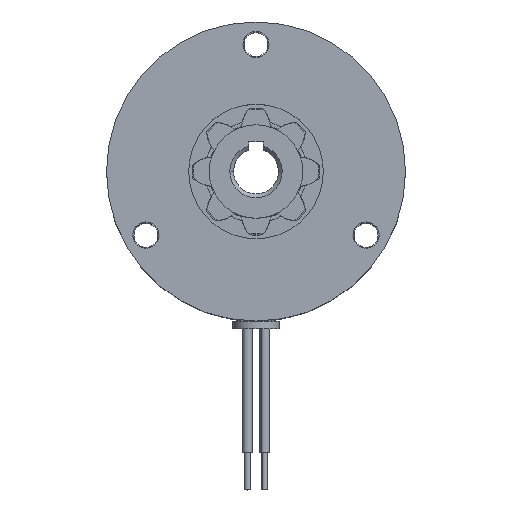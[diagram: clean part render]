
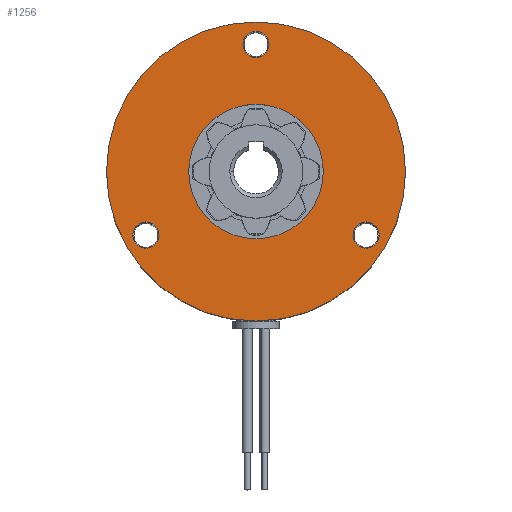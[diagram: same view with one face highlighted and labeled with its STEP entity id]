
A CAD part, top view. The second image highlights one B-rep face of the part: STEP entity #1256.
In plain terms, the highlighted planar face has unit normal (0, 0, 1).
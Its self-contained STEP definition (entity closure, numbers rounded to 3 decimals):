
#71 = AXIS2_PLACEMENT_3D ( 'NONE', #4458, #2994, #2375 ) ;
#74 = PLANE ( 'NONE',  #898 ) ;
#105 = AXIS2_PLACEMENT_3D ( 'NONE', #762, #2709, #2632 ) ;
#107 = EDGE_LOOP ( 'NONE', ( #2975, #453 ) ) ;
#177 = CARTESIAN_POINT ( 'NONE',  ( 16.472, -8.5, 0. ) ) ;
#361 = VERTEX_POINT ( 'NONE', #177 ) ;
#381 = CIRCLE ( 'NONE', #2966, 1.75 ) ;
#412 = CARTESIAN_POINT ( 'NONE',  ( 0., 0., 0. ) ) ;
#453 = ORIENTED_EDGE ( 'NONE', *, *, #1687, .F. ) ;
#614 = VERTEX_POINT ( 'NONE', #5573 ) ;
#707 = ORIENTED_EDGE ( 'NONE', *, *, #4171, .F. ) ;
#762 = CARTESIAN_POINT ( 'NONE',  ( 0., 0., 0. ) ) ;
#898 = AXIS2_PLACEMENT_3D ( 'NONE', #1784, #4828, #1262 ) ;
#944 = CARTESIAN_POINT ( 'NONE',  ( 14.722, -8.5, 0. ) ) ;
#995 = EDGE_CURVE ( 'NONE', #1232, #361, #381, .T. ) ;
#1109 = CIRCLE ( 'NONE', #6290, 1.75 ) ;
#1140 = FACE_OUTER_BOUND ( 'NONE', #2082, .T. ) ;
#1211 = EDGE_CURVE ( 'NONE', #7070, #6874, #6079, .T. ) ;
#1232 = VERTEX_POINT ( 'NONE', #1866 ) ;
#1234 = CARTESIAN_POINT ( 'NONE',  ( 0., 17., 0. ) ) ;
#1256 = ADVANCED_FACE ( 'NONE', ( #3682, #6168, #4329, #1745, #1140 ), #74, .F. ) ;
#1262 = DIRECTION ( 'NONE',  ( -1., 0., 0. ) ) ;
#1642 = AXIS2_PLACEMENT_3D ( 'NONE', #412, #5313, #3554 ) ;
#1687 = EDGE_CURVE ( 'NONE', #7722, #2619, #6435, .T. ) ;
#1745 = FACE_BOUND ( 'NONE', #4073, .T. ) ;
#1784 = CARTESIAN_POINT ( 'NONE',  ( 0., 20., 0. ) ) ;
#1866 = CARTESIAN_POINT ( 'NONE',  ( 12.972, -8.5, 0. ) ) ;
#1887 = EDGE_CURVE ( 'NONE', #361, #1232, #1109, .T. ) ;
#1921 = DIRECTION ( 'NONE',  ( 1., 0., 0. ) ) ;
#1936 = DIRECTION ( 'NONE',  ( 1., 0., 0. ) ) ;
#2020 = AXIS2_PLACEMENT_3D ( 'NONE', #8012, #4335, #5078 ) ;
#2082 = EDGE_LOOP ( 'NONE', ( #5153, #4897 ) ) ;
#2096 = EDGE_CURVE ( 'NONE', #6874, #7070, #5510, .T. ) ;
#2273 = CARTESIAN_POINT ( 'NONE',  ( -1.75, 17., 0. ) ) ;
#2275 = DIRECTION ( 'NONE',  ( 0., 0., 1. ) ) ;
#2318 = CARTESIAN_POINT ( 'NONE',  ( 14.722, -8.5, 0. ) ) ;
#2374 = CARTESIAN_POINT ( 'NONE',  ( 0., 17., 0. ) ) ;
#2375 = DIRECTION ( 'NONE',  ( 1., 0., 0. ) ) ;
#2382 = ORIENTED_EDGE ( 'NONE', *, *, #3036, .F. ) ;
#2516 = VERTEX_POINT ( 'NONE', #2273 ) ;
#2619 = VERTEX_POINT ( 'NONE', #7193 ) ;
#2625 = ORIENTED_EDGE ( 'NONE', *, *, #995, .F. ) ;
#2632 = DIRECTION ( 'NONE',  ( 1., 0., 0. ) ) ;
#2709 = DIRECTION ( 'NONE',  ( 0., 0., 1. ) ) ;
#2724 = EDGE_CURVE ( 'NONE', #2619, #7722, #5430, .T. ) ;
#2843 = AXIS2_PLACEMENT_3D ( 'NONE', #5542, #3750, #1936 ) ;
#2966 = AXIS2_PLACEMENT_3D ( 'NONE', #944, #2275, #4094 ) ;
#2975 = ORIENTED_EDGE ( 'NONE', *, *, #2724, .F. ) ;
#2994 = DIRECTION ( 'NONE',  ( 0., 0., 1. ) ) ;
#3016 = VERTEX_POINT ( 'NONE', #7297 ) ;
#3036 = EDGE_CURVE ( 'NONE', #614, #2516, #3868, .T. ) ;
#3554 = DIRECTION ( 'NONE',  ( 1., 0., 0. ) ) ;
#3595 = CIRCLE ( 'NONE', #105, 9. ) ;
#3597 = AXIS2_PLACEMENT_3D ( 'NONE', #5478, #5515, #3763 ) ;
#3682 = FACE_BOUND ( 'NONE', #7156, .T. ) ;
#3750 = DIRECTION ( 'NONE',  ( 0., 0., 1. ) ) ;
#3763 = DIRECTION ( 'NONE',  ( 1., 0., 0. ) ) ;
#3868 = CIRCLE ( 'NONE', #4521, 1.75 ) ;
#4073 = EDGE_LOOP ( 'NONE', ( #5117, #707 ) ) ;
#4094 = DIRECTION ( 'NONE',  ( 1., 0., 0. ) ) ;
#4170 = DIRECTION ( 'NONE',  ( 0., 0., 1. ) ) ;
#4171 = EDGE_CURVE ( 'NONE', #3016, #5221, #7608, .T. ) ;
#4223 = DIRECTION ( 'NONE',  ( 0., 0., 1. ) ) ;
#4329 = FACE_BOUND ( 'NONE', #4681, .T. ) ;
#4335 = DIRECTION ( 'NONE',  ( 0., 0., 1. ) ) ;
#4458 = CARTESIAN_POINT ( 'NONE',  ( -14.722, -8.5, 0. ) ) ;
#4521 = AXIS2_PLACEMENT_3D ( 'NONE', #1234, #6184, #1921 ) ;
#4679 = CARTESIAN_POINT ( 'NONE',  ( -16.472, -8.5, 0. ) ) ;
#4681 = EDGE_LOOP ( 'NONE', ( #2382, #5742 ) ) ;
#4828 = DIRECTION ( 'NONE',  ( 0., 0., -1. ) ) ;
#4863 = DIRECTION ( 'NONE',  ( 1., 0., 0. ) ) ;
#4897 = ORIENTED_EDGE ( 'NONE', *, *, #2096, .T. ) ;
#4899 = AXIS2_PLACEMENT_3D ( 'NONE', #2374, #4223, #6686 ) ;
#5054 = CARTESIAN_POINT ( 'NONE',  ( 20., 0., 0. ) ) ;
#5078 = DIRECTION ( 'NONE',  ( 1., 0., 0. ) ) ;
#5117 = ORIENTED_EDGE ( 'NONE', *, *, #6466, .F. ) ;
#5153 = ORIENTED_EDGE ( 'NONE', *, *, #1211, .T. ) ;
#5221 = VERTEX_POINT ( 'NONE', #6955 ) ;
#5313 = DIRECTION ( 'NONE',  ( 0., 0., 1. ) ) ;
#5398 = ORIENTED_EDGE ( 'NONE', *, *, #1887, .F. ) ;
#5430 = CIRCLE ( 'NONE', #2843, 1.75 ) ;
#5478 = CARTESIAN_POINT ( 'NONE',  ( 0., 0., 0. ) ) ;
#5510 = CIRCLE ( 'NONE', #2020, 20. ) ;
#5515 = DIRECTION ( 'NONE',  ( 0., 0., 1. ) ) ;
#5542 = CARTESIAN_POINT ( 'NONE',  ( -14.722, -8.5, 0. ) ) ;
#5573 = CARTESIAN_POINT ( 'NONE',  ( 1.75, 17., 0. ) ) ;
#5742 = ORIENTED_EDGE ( 'NONE', *, *, #6209, .F. ) ;
#5939 = CIRCLE ( 'NONE', #4899, 1.75 ) ;
#6079 = CIRCLE ( 'NONE', #3597, 20. ) ;
#6168 = FACE_BOUND ( 'NONE', #107, .T. ) ;
#6184 = DIRECTION ( 'NONE',  ( 0., 0., 1. ) ) ;
#6209 = EDGE_CURVE ( 'NONE', #2516, #614, #5939, .T. ) ;
#6290 = AXIS2_PLACEMENT_3D ( 'NONE', #2318, #4170, #4863 ) ;
#6435 = CIRCLE ( 'NONE', #71, 1.75 ) ;
#6466 = EDGE_CURVE ( 'NONE', #5221, #3016, #3595, .T. ) ;
#6686 = DIRECTION ( 'NONE',  ( 1., 0., 0. ) ) ;
#6874 = VERTEX_POINT ( 'NONE', #7463 ) ;
#6955 = CARTESIAN_POINT ( 'NONE',  ( 9., 0., 0. ) ) ;
#7070 = VERTEX_POINT ( 'NONE', #5054 ) ;
#7156 = EDGE_LOOP ( 'NONE', ( #5398, #2625 ) ) ;
#7193 = CARTESIAN_POINT ( 'NONE',  ( -12.972, -8.5, 0. ) ) ;
#7297 = CARTESIAN_POINT ( 'NONE',  ( -9., 0., 0. ) ) ;
#7463 = CARTESIAN_POINT ( 'NONE',  ( -20., 0., 0. ) ) ;
#7608 = CIRCLE ( 'NONE', #1642, 9. ) ;
#7722 = VERTEX_POINT ( 'NONE', #4679 ) ;
#8012 = CARTESIAN_POINT ( 'NONE',  ( 0., 0., 0. ) ) ;
